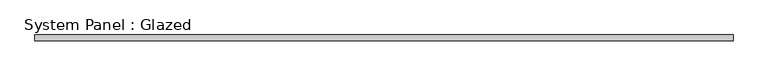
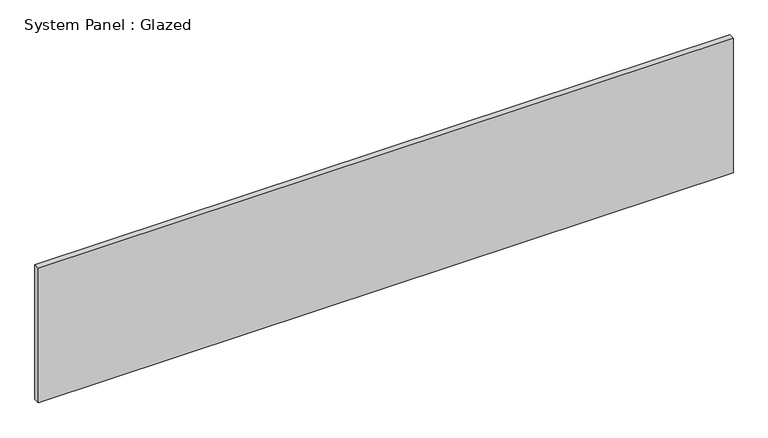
"""IFC4 building model written with IfcOpenShell, lengths in millimetres: plate geometry, System Panel : Glazed."""

from ifc_helpers import new_model, si_unit, origin, origin_with_axes, place, context, project, spatial, polyline, outline, extrude, source, transform, mapped, element, save


def system_panel_glazed_21c84cce(model_context):
    return source(origin(), model_context, "Body", "SweptSolid", [
        extrude(outline(polyline([(1466.25, -49.5), (-1466.25, -49.5), (-1466.25, -24.5), (1466.25, -24.5), (1466.25, -49.5)])), origin_with_axes(), (0.0, 0.0, 1.0), 600.0),
    ])


if __name__ == "__main__":
    model = new_model("IFC4")
    model_context = context("Model", 3, world=origin())
    ifc_project = project(units=[si_unit("LENGTHUNIT", "METRE", prefix="MILLI")], contexts=[model_context])
    site = spatial("IfcSite", under=ifc_project)
    building = spatial("IfcBuilding", under=site)
    placement = place(None, origin())
    system_panel_glazed_shape = system_panel_glazed_21c84cce(model_context)
    element("IfcPlate", 1, ObjectType="System Panel : Glazed", at=placement, inside=building, context=model_context, shape_type="MappedRepresentation", body=[
        mapped(system_panel_glazed_shape, transform((0.0, 0.0, 0.0), x_axis=(1.0, 0.0, 0.0), y_axis=(0.0, 1.0, 0.0), z_axis=(0.0, 0.0, 1.0))),
    ])
    save(model, "model.ifc")
